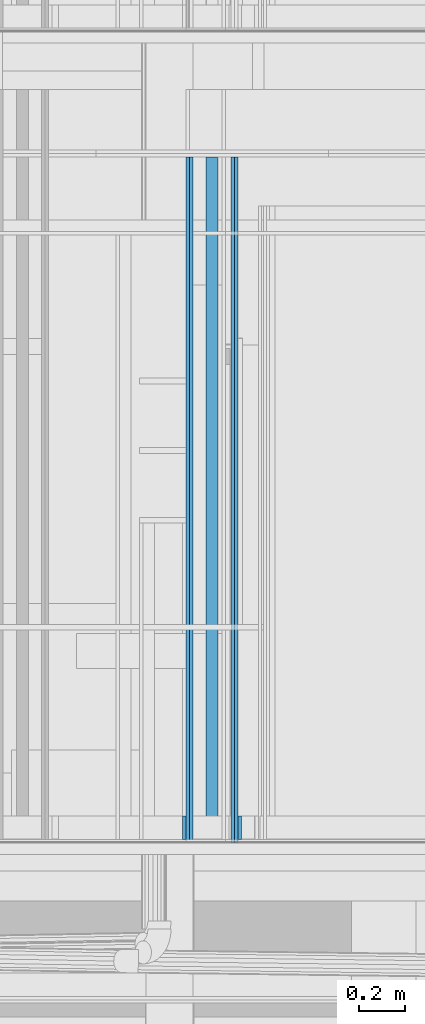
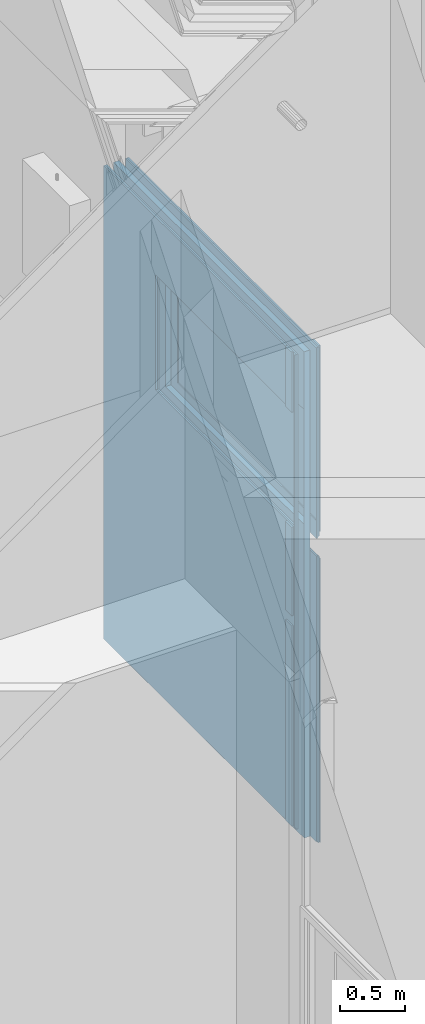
# One storey, part 64 of 583: 11 building element parts, 1 opening, 1 element without a shape of its own.
"""IFC2X3 building model written with IfcOpenShell, lengths in metres."""

from ifc_helpers import new_model, entity, si_unit, converted_unit, derived_unit, money_unit, direction, frame, frame_2d, origin_with_axes, place, context, subcontext, project, spatial, polyline, rectangle, outline, extrude, material, type_object, element, aggregate, save


model = new_model("IFC2X3")

# Units and contexts
model_context = context("Model", 3, precision=1e-05, world=origin_with_axes(), true_north=direction((0.0, 1.0)))
body_context = subcontext(model_context, "Body", "Model", "MODEL_VIEW", scale=1.0)
ifc_project = project(units=[si_unit("LENGTHUNIT", "METRE"), si_unit("AREAUNIT", "SQUARE_METRE"), si_unit("VOLUMEUNIT", "CUBIC_METRE"), si_unit("ABSORBEDDOSEUNIT", "GRAY"), si_unit("AMOUNTOFSUBSTANCEUNIT", "MOLE"), si_unit("DOSEEQUIVALENTUNIT", "SIEVERT"), si_unit("ELECTRICCAPACITANCEUNIT", "FARAD"), si_unit("ELECTRICCHARGEUNIT", "COULOMB"), si_unit("ELECTRICCONDUCTANCEUNIT", "SIEMENS"), si_unit("ELECTRICCURRENTUNIT", "AMPERE"), si_unit("ELECTRICRESISTANCEUNIT", "OHM"), si_unit("ELECTRICVOLTAGEUNIT", "VOLT"), si_unit("ENERGYUNIT", "JOULE"), si_unit("FORCEUNIT", "NEWTON"), si_unit("FREQUENCYUNIT", "HERTZ"), si_unit("ILLUMINANCEUNIT", "LUX"), si_unit("INDUCTANCEUNIT", "HENRY"), si_unit("LUMINOUSFLUXUNIT", "LUMEN"), si_unit("LUMINOUSINTENSITYUNIT", "CANDELA"), si_unit("MAGNETICFLUXDENSITYUNIT", "TESLA"), si_unit("MAGNETICFLUXUNIT", "WEBER"), si_unit("MASSUNIT", "GRAM"), converted_unit("PLANEANGLEUNIT", "degree", entity("IfcReal", 0.0174532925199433), si_unit("PLANEANGLEUNIT", "RADIAN"), dimensions=[0, 0, 0, 0, 0, 0, 0]), si_unit("POWERUNIT", "WATT"), si_unit("PRESSUREUNIT", "PASCAL"), si_unit("RADIOACTIVITYUNIT", "BECQUEREL"), si_unit("SOLIDANGLEUNIT", "STERADIAN"), si_unit("THERMODYNAMICTEMPERATUREUNIT", "KELVIN"), si_unit("TIMEUNIT", "SECOND"), derived_unit("ACCELERATIONUNIT", [(si_unit("LENGTHUNIT", "METRE"), 1), (si_unit("TIMEUNIT", "SECOND"), -2)]), derived_unit("ANGULARVELOCITYUNIT", [(converted_unit("PLANEANGLEUNIT", "degree", entity("IfcReal", 0.0174532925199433), si_unit("PLANEANGLEUNIT", "RADIAN"), dimensions=[0, 0, 0, 0, 0, 0, 0]), 1), (si_unit("TIMEUNIT", "SECOND"), -1)]), derived_unit("CURVATUREUNIT", [(converted_unit("PLANEANGLEUNIT", "degree", entity("IfcReal", 0.0174532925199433), si_unit("PLANEANGLEUNIT", "RADIAN"), dimensions=[0, 0, 0, 0, 0, 0, 0]), 1), (si_unit("LENGTHUNIT", "METRE"), -1)]), derived_unit("DYNAMICVISCOSITYUNIT", [(si_unit("PRESSUREUNIT", "PASCAL"), 1), (si_unit("TIMEUNIT", "SECOND"), 1)]), derived_unit("HEATFLUXDENSITYUNIT", [(si_unit("POWERUNIT", "WATT"), 1), (si_unit("LENGTHUNIT", "METRE"), -2)]), derived_unit("HEATINGVALUEUNIT", [(si_unit("ENERGYUNIT", "JOULE"), 1), (si_unit("MASSUNIT", "GRAM"), -1)]), derived_unit("INTEGERCOUNTRATEUNIT", [(si_unit("TIMEUNIT", "SECOND"), -1)]), derived_unit("IONCONCENTRATIONUNIT", [(si_unit("MASSUNIT", "GRAM"), 1), (si_unit("VOLUMEUNIT", "CUBIC_METRE"), -1)]), derived_unit("ISOTHERMALMOISTURECAPACITYUNIT", [(si_unit("VOLUMEUNIT", "CUBIC_METRE"), 1), (si_unit("MASSUNIT", "GRAM"), -1)]), derived_unit("KINEMATICVISCOSITYUNIT", [(si_unit("AREAUNIT", "SQUARE_METRE"), 1), (si_unit("TIMEUNIT", "SECOND"), -1)]), derived_unit("LINEARFORCEUNIT", [(si_unit("FORCEUNIT", "NEWTON"), 1), (si_unit("LENGTHUNIT", "METRE"), -1)]), derived_unit("LINEARMOMENTUNIT", [(si_unit("FORCEUNIT", "NEWTON"), 1), (si_unit("LENGTHUNIT", "METRE"), -1)]), derived_unit("LINEARSTIFFNESSUNIT", [(si_unit("FORCEUNIT", "NEWTON"), 1), (si_unit("LENGTHUNIT", "METRE"), -1)]), derived_unit("LINEARVELOCITYUNIT", [(si_unit("LENGTHUNIT", "METRE"), 1), (si_unit("TIMEUNIT", "SECOND"), -1)]), derived_unit("LUMINOUSINTENSITYDISTRIBUTIONUNIT", [(si_unit("LUMINOUSINTENSITYUNIT", "CANDELA"), 1), (si_unit("LUMINOUSFLUXUNIT", "LUMEN"), -1)]), derived_unit("MASSDENSITYUNIT", [(si_unit("MASSUNIT", "GRAM"), 1), (si_unit("VOLUMEUNIT", "CUBIC_METRE"), -1)]), derived_unit("MASSFLOWRATEUNIT", [(si_unit("MASSUNIT", "GRAM"), 1), (si_unit("TIMEUNIT", "SECOND"), -1)]), derived_unit("MASSPERLENGTHUNIT", [(si_unit("MASSUNIT", "GRAM"), 1), (si_unit("LENGTHUNIT", "METRE"), -1)]), derived_unit("MODULUSOFELASTICITYUNIT", [(si_unit("FORCEUNIT", "NEWTON"), 1), (si_unit("AREAUNIT", "SQUARE_METRE"), -1)]), derived_unit("MODULUSOFLINEARSUBGRADEREACTIONUNIT", [(si_unit("FORCEUNIT", "NEWTON"), 1), (si_unit("LENGTHUNIT", "METRE"), -2)]), derived_unit("MODULUSOFROTATIONALSUBGRADEREACTIONUNIT", [(si_unit("FORCEUNIT", "NEWTON"), 1), (si_unit("LENGTHUNIT", "METRE"), 1)]), derived_unit("MODULUSOFSUBGRADEREACTIONUNIT", [(si_unit("FORCEUNIT", "NEWTON"), 1), (si_unit("VOLUMEUNIT", "CUBIC_METRE"), -1)]), derived_unit("MOISTUREDIFFUSIVITYUNIT", [(si_unit("VOLUMEUNIT", "CUBIC_METRE"), 1), (si_unit("TIMEUNIT", "SECOND"), -1)]), derived_unit("MOLECULARWEIGHTUNIT", [(si_unit("MASSUNIT", "GRAM"), 1), (si_unit("AMOUNTOFSUBSTANCEUNIT", "MOLE"), -1)]), derived_unit("PLANARFORCEUNIT", [(si_unit("FORCEUNIT", "NEWTON"), 1), (si_unit("LENGTHUNIT", "METRE"), -2)]), derived_unit("ROTATIONALFREQUENCYUNIT", [(si_unit("TIMEUNIT", "SECOND"), -1)]), derived_unit("ROTATIONALMASSUNIT", [(si_unit("MASSUNIT", "GRAM"), 1), (si_unit("LENGTHUNIT", "METRE"), 2)]), derived_unit("ROTATIONALSTIFFNESSUNIT", [(si_unit("FORCEUNIT", "NEWTON"), 1), (si_unit("LENGTHUNIT", "METRE"), 1), (converted_unit("PLANEANGLEUNIT", "degree", entity("IfcReal", 0.0174532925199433), si_unit("PLANEANGLEUNIT", "RADIAN"), dimensions=[0, 0, 0, 0, 0, 0, 0]), -1)]), derived_unit("SECTIONAREAINTEGRALUNIT", [(si_unit("LENGTHUNIT", "METRE"), 5)]), derived_unit("SECTIONMODULUSUNIT", [(si_unit("LENGTHUNIT", "METRE"), 3)]), derived_unit("SHEARMODULUSUNIT", [(si_unit("FORCEUNIT", "NEWTON"), 1), (si_unit("AREAUNIT", "SQUARE_METRE"), -1)]), derived_unit("SOUNDPOWERUNIT", [(si_unit("ENERGYUNIT", "JOULE"), 1), (si_unit("TIMEUNIT", "SECOND"), -1)]), derived_unit("SPECIFICHEATCAPACITYUNIT", [(si_unit("FORCEUNIT", "NEWTON"), 1), (si_unit("MASSUNIT", "GRAM"), -1), (si_unit("THERMODYNAMICTEMPERATUREUNIT", "KELVIN"), -1)]), derived_unit("TEMPERATUREGRADIENTUNIT", [(si_unit("THERMODYNAMICTEMPERATUREUNIT", "KELVIN"), 1), (si_unit("LENGTHUNIT", "METRE"), -1)]), derived_unit("THERMALADMITTANCEUNIT", [(si_unit("POWERUNIT", "WATT"), 1), (si_unit("AREAUNIT", "SQUARE_METRE"), -1), (si_unit("THERMODYNAMICTEMPERATUREUNIT", "KELVIN"), -1)]), derived_unit("THERMALCONDUCTANCEUNIT", [(si_unit("POWERUNIT", "WATT"), 1), (si_unit("LENGTHUNIT", "METRE"), -1), (si_unit("THERMODYNAMICTEMPERATUREUNIT", "KELVIN"), -1)]), derived_unit("THERMALEXPANSIONCOEFFICIENTUNIT", [(si_unit("THERMODYNAMICTEMPERATUREUNIT", "KELVIN"), -1)]), derived_unit("THERMALRESISTANCEUNIT", [(si_unit("AREAUNIT", "SQUARE_METRE"), 1), (si_unit("POWERUNIT", "WATT"), -1)]), derived_unit("THERMALTRANSMITTANCEUNIT", [(si_unit("POWERUNIT", "WATT"), 1), (si_unit("AREAUNIT", "SQUARE_METRE"), -1), (si_unit("THERMODYNAMICTEMPERATUREUNIT", "KELVIN"), -1)]), derived_unit("TORQUEUNIT", [(si_unit("FORCEUNIT", "NEWTON"), 1), (si_unit("LENGTHUNIT", "METRE"), 1)]), derived_unit("VAPORPERMEABILITYUNIT", [(si_unit("MASSUNIT", "GRAM"), 1), (si_unit("TIMEUNIT", "SECOND"), -1)]), derived_unit("VOLUMETRICFLOWRATEUNIT", [(si_unit("VOLUMEUNIT", "CUBIC_METRE"), 1), (si_unit("TIMEUNIT", "SECOND"), -1)]), derived_unit("WARPINGCONSTANTUNIT", [(si_unit("LENGTHUNIT", "METRE"), 6)]), derived_unit("WARPINGMOMENTUNIT", [(si_unit("FORCEUNIT", "NEWTON"), 1), (si_unit("LENGTHUNIT", "METRE"), 2)]), money_unit("GBP")], contexts=[model_context])

# Site, building, storey
site_placement = place(None, origin_with_axes())
site = spatial("IfcSite", under=ifc_project, at=site_placement, Name="Site", CompositionType="ELEMENT")
building_placement = place(site_placement, origin_with_axes())
building = spatial("IfcBuilding", under=site, at=building_placement, Name="Building01", CompositionType="ELEMENT")
storey_placement = place(building_placement, frame((0.0, 0.0, 20.78), z_axis=(0.0, 0.0, 1.0), x_axis=(1.0, 0.0, 0.0)))
storey = spatial("IfcBuildingStorey", under=building, at=storey_placement, Name="RL", CompositionType="ELEMENT", Elevation=20.78)

# Wall, opening, building element parts
wall_type = type_object("IfcWallType", Name="SHE_A-Walls_Type01c_Partywall_225mm_twin_tall", PredefinedType="NOTDEFINED")
wall_placement = place(storey_placement, frame((5.117, 5.15, -11.72), z_axis=(0.0, 1.0, 0.0), x_axis=(0.0, 0.0, -1.0)))
wall = element("IfcWall", 1, at=wall_placement, inside=storey, type_object=wall_type, Name="1C", ObjectType="SHE_A-Walls_Type01c_Partywall_225mm_twin_tall")
opening_placement = place(wall_placement, frame((0.5455, 0.137, 0.004), z_axis=(0.0, 0.0, 1.0), x_axis=(1.0, 0.0, 0.0)))
element("IfcOpeningElement", 2, at=opening_placement, cuts=wall, Name="Opening", ObjectType="Opening", context=body_context, shape_type="SweptSolid", body=[
    extrude(rectangle(XDim=2.142, YDim=1.084, at=frame_2d((-0.542, 1.071), x_axis=(0.0, -1.0))), frame((0.0, -0.2055, 0.0), z_axis=(0.0, 1.0, 0.0), x_axis=(-1.0, 0.0, 0.0)), (0.0, 0.0, 1.0), 0.411),
])
ifc_material_1 = material(Name="A_BSUK_Insulation")
placement = place(wall_placement, origin_with_axes())
building_element_part_1 = element("IfcBuildingElementPart", 3, at=placement, material=ifc_material_1, Name="1", context=body_context, shape_type="SweptSolid", body=[
    extrude(rectangle(XDim=4.588, YDim=0.05, at=frame_2d((2.294, 0.025), x_axis=(-1.0, 0.0))), origin_with_axes(), (0.0, 0.0, 1.0), 2.95),
])
ifc_material_2 = material(Name="A_BSUK_Walls_Timber")
building_element_part_2 = element("IfcBuildingElementPart", 4, at=placement, material=ifc_material_2, Name="2", context=body_context, shape_type="SweptSolid", body=[
    extrude(rectangle(XDim=2.487536, YDim=0.015, at=frame_2d((1.221232, 0.1445), x_axis=(-1.0, 0.0))), frame((0.0, 0.0, 0.015), z_axis=(0.0, 0.0, 1.0), x_axis=(1.0, 0.0, 0.0)), (0.0, 0.0, 1.0), 0.1),
])
ifc_material_3 = material(Name="A_BSUK_WallInternal_Finishes_Plasterboard")
building_element_part_3 = element("IfcBuildingElementPart", 5, at=placement, material=ifc_material_3, Name="3", context=body_context, shape_type="SweptSolid", body=[
    extrude(rectangle(XDim=4.465, YDim=0.015, at=frame_2d((2.2325, 0.1295), x_axis=(-1.0, 0.0))), origin_with_axes(), (0.0, 0.0, 1.0), 2.95),
])
building_element_part_4 = element("IfcBuildingElementPart", 6, at=placement, material=ifc_material_3, Name="4", context=body_context, shape_type="SweptSolid", body=[
    extrude(rectangle(XDim=4.48, YDim=0.015, at=frame_2d((2.24, 0.1145), x_axis=(-1.0, 0.0))), origin_with_axes(), (0.0, 0.0, 1.0), 2.95),
])
building_element_part_5 = element("IfcBuildingElementPart", 7, at=placement, material=ifc_material_3, Name="5", context=body_context, shape_type="SweptSolid", body=[
    extrude(rectangle(XDim=1.800331, YDim=0.015, at=frame_2d((0.900166, -0.0655), x_axis=(-1.0, 0.0))), origin_with_axes(), (0.0, 0.0, 1.0), 2.95),
])
building_element_part_6 = element("IfcBuildingElementPart", 8, at=placement, material=ifc_material_3, Name="6", context=body_context, shape_type="SweptSolid", body=[
    extrude(rectangle(XDim=1.785331, YDim=0.015, at=frame_2d((0.892666, -0.0805), x_axis=(-1.0, 0.0))), origin_with_axes(), (0.0, 0.0, 1.0), 2.95),
])
building_element_part_7 = element("IfcBuildingElementPart", 9, at=placement, material=ifc_material_2, Name="7", context=body_context, shape_type="SweptSolid", body=[
    extrude(rectangle(XDim=1.755331, YDim=0.015, at=frame_2d((0.877666, -0.0955), x_axis=(-1.0, 0.0))), frame((0.0, 0.0, 0.015), z_axis=(0.0, 0.0, 1.0), x_axis=(1.0, 0.0, 0.0)), (0.0, 0.0, 1.0), 0.1),
])
building_element_part_8 = element("IfcBuildingElementPart", 10, at=placement, material=ifc_material_3, Name="8", context=body_context, shape_type="SweptSolid", body=[
    extrude(rectangle(XDim=2.694669, YDim=0.015, at=frame_2d((3.327666, -0.0805), x_axis=(-1.0, 0.0))), origin_with_axes(), (0.0, 0.0, 1.0), 2.95),
])
building_element_part_9 = element("IfcBuildingElementPart", 11, at=placement, material=ifc_material_3, Name="9", context=body_context, shape_type="SweptSolid", body=[
    extrude(rectangle(XDim=2.694669, YDim=0.015, at=frame_2d((3.312666, -0.0655), x_axis=(-1.0, 0.0))), origin_with_axes(), (0.0, 0.0, 1.0), 2.95),
])
building_element_part_10 = element("IfcBuildingElementPart", 12, at=placement, material=ifc_material_2, Name="10", context=body_context, shape_type="SweptSolid", body=[
    extrude(outline(polyline([(4.675, -0.088), (2.010331, -0.088), (2.010331, -0.103), (4.69, -0.103), (4.675, -0.088)])), frame((0.0, 0.0, 0.015), z_axis=(0.0, 0.0, 1.0), x_axis=(1.0, 0.0, 0.0)), (0.0, 0.0, 1.0), 0.1),
])
building_element_part_11 = element("IfcBuildingElementPart", 13, at=placement, material=ifc_material_2, Name="11", context=body_context, shape_type="SweptSolid", body=[
    extrude(rectangle(XDim=1.89, YDim=0.015, at=frame_2d((3.505, 0.1445), x_axis=(-1.0, 0.0))), frame((0.0, 0.0, 0.015), z_axis=(0.0, 0.0, 1.0), x_axis=(1.0, 0.0, 0.0)), (0.0, 0.0, 1.0), 0.1),
])
aggregate(wall, [building_element_part_1, building_element_part_2, building_element_part_3, building_element_part_4, building_element_part_5, building_element_part_6, building_element_part_7, building_element_part_8, building_element_part_9, building_element_part_10, building_element_part_11])

save(model, "model.ifc")
